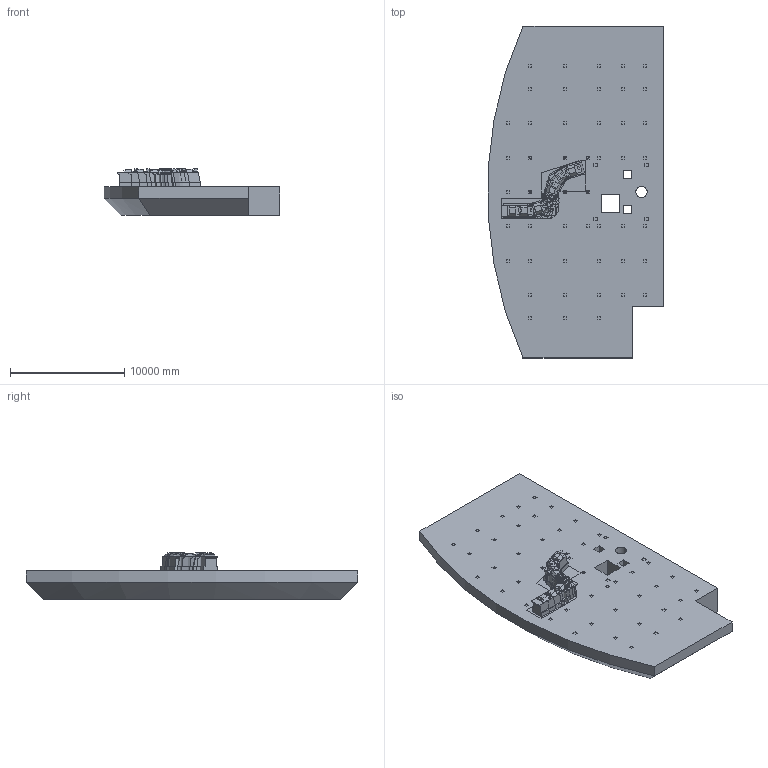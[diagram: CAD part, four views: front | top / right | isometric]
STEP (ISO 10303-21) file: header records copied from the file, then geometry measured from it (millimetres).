
FILE_DESCRIPTION (( 'STEP AP214' ), '1' );
FILE_NAME ('E-MAO-SE0-00-00-00-00-MOD_02.STEP', '2026-03-11T15:06:59', ( '' ), ( '' ), 'SwSTEP 2.0', 'SolidWorks 2024', '' );
FILE_SCHEMA (( 'AUTOMOTIVE_DESIGN' ));
Length unit declared in the file: millimetre
Products named in the file (9): Nasmyth-plateform-2020-10-29; Nasmyth CAD-134995; E-MAO-SE0-00-00-00-00-MOD_01-new2; E-MAO-SE0-00-00-00-00-MOD_02; CAD-134994; volume strumento aggiuntivo; CAD-134998; LGS on Lifting tool volume; assieme Nasmyth
Assembly tree (24 placements, depth 6):
  E-MAO-SE0-00-00-00-00-MOD_02
    E-MAO-SE0-00-00-00-00-MOD_01-new2
      Nasmyth-plateform-2020-10-29
        assieme Nasmyth
          Nasmyth CAD-134995
            CAD-134994
            CAD-134998  x6
    LGS on Lifting tool volume  x13
  volume strumento aggiuntivo
Bounding box: 15335.89 x 29000 x 4099.9 mm (x, y, z)
Volume: 976706048228.3 mm3; surface area: 1163122211.8 mm2
Topology: 20 solids, 20 shells, 1138 faces, 2874 edges, 1738 vertices
Faces by surface type: plane 738, cylinder 207, cone 193
Entity records: 15046 total; most frequent: CARTESIAN_POINT 2024, ORIENTED_EDGE 1912, DIRECTION 1893, EDGE_CURVE 956, VECTOR 879, LINE 879, VERTEX_POINT 630, AXIS2_PLACEMENT_3D 507
